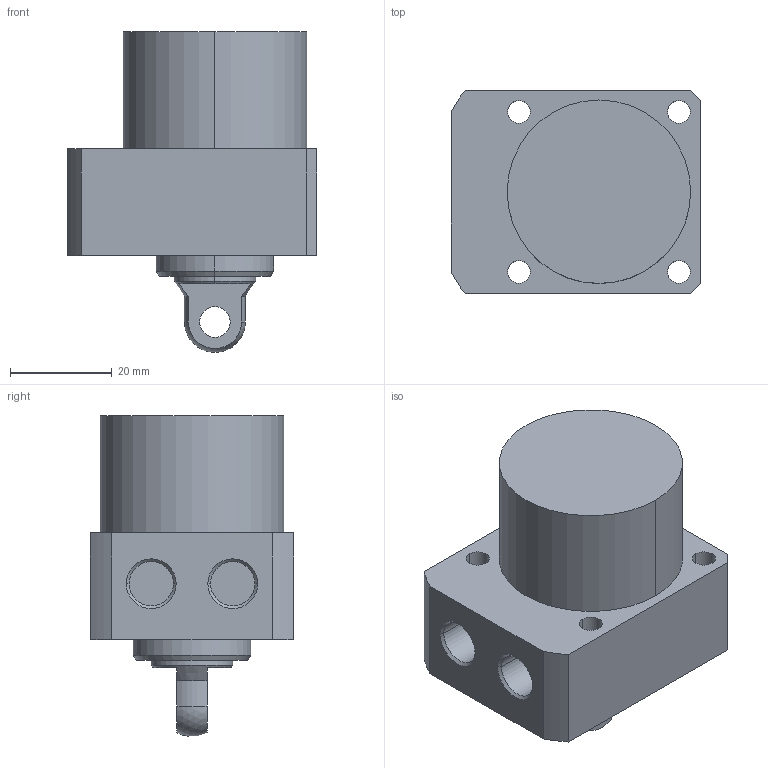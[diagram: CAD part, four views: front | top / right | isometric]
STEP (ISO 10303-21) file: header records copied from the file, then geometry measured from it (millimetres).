
FILE_DESCRIPTION((' '),'2;1');
FILE_NAME( 'TLLR-036CP-(1-14).STEP.stp', '2025-10-24T16:35:48', (' '), ('--- Datakit www.datakit.com---'), ' Datakit CrossCadWare V2024.1 Dec 21 2023', 'Mastercam 2025', ' ');
FILE_SCHEMA(('AUTOMOTIVE_DESIGN { 1 0 10303 214 1 1 1 1 }'));
Length unit declared in the file: millimetre
Products named in the file (1): TLLR-036CP-(1-14)
Bounding box: 49 x 40 x 62.97 mm (x, y, z)
Volume: 63956.3 mm3; surface area: 12625.1 mm2
Topology: 1 solids, 1 shells, 55 faces, 157 edges, 111 vertices
Faces by surface type: cylinder 28, plane 18, cone 8, sphere 1
Entity records: 1924 total; most frequent: DIRECTION 360, CARTESIAN_POINT 336, ORIENTED_EDGE 314, EDGE_CURVE 157, AXIS2_PLACEMENT_3D 151, VERTEX_POINT 111, CIRCLE 95, EDGE_LOOP 72
